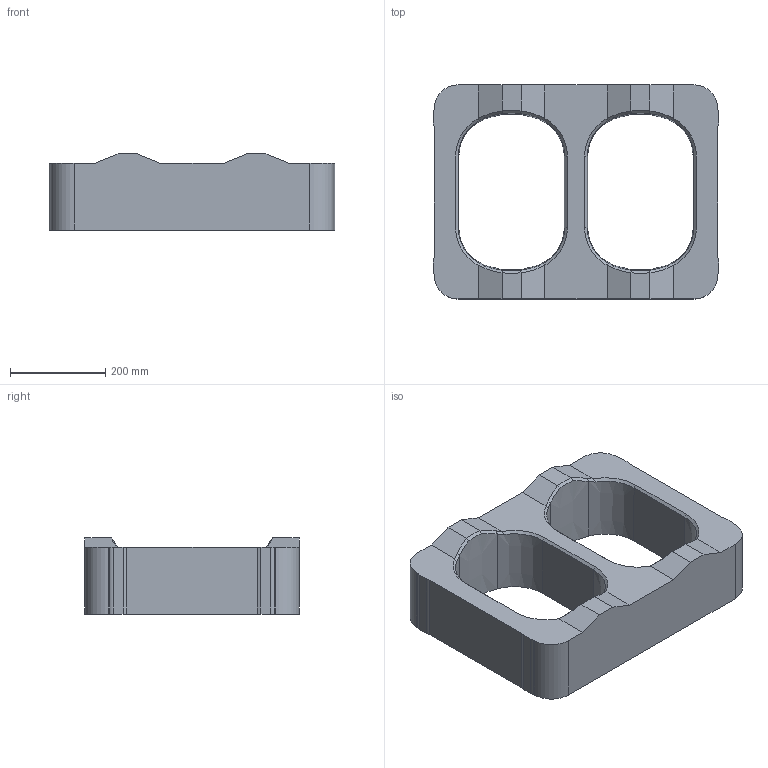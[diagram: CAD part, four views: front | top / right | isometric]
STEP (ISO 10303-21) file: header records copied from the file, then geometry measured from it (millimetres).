
FILE_DESCRIPTION(/* description */ (''),/* implementation_level */ '2;1');
FILE_NAME(/* name */ 'C:\Users\Aroen\Hillblock BV\R&D Bufferblock - Documenten\_3D modellen\Bufferblock v2.9A 04-11-2019.stp',/* time_stamp */ '2019-11-04T15:28:21+01:00',/* author */ ('Aroen'),/* organization */ (''),/* preprocessor_version */ 'ST-DEVELOPER v17',/* originating_system */ 'Autodesk Inventor LT',/* authorisation */ '');
FILE_SCHEMA (('AUTOMOTIVE_DESIGN { 1 0 10303 214 3 1 1 }'));
Length unit declared in the file: millimetre
Products named in the file (1): Bufferblock v2.9A 29-10-2019
Bounding box: 600 x 450 x 160 mm (x, y, z)
Volume: 19262527.4 mm3; surface area: 825322.2 mm2
Topology: 1 solids, 1 shells, 88 faces, 264 edges, 176 vertices
Faces by surface type: plane 36, cone 24, bspline 16, cylinder 12
Entity records: 3490 total; most frequent: CARTESIAN_POINT 1232, ORIENTED_EDGE 528, DIRECTION 392, EDGE_CURVE 264, VERTEX_POINT 176, AXIS2_PLACEMENT_3D 149, LINE 94, VECTOR 94
